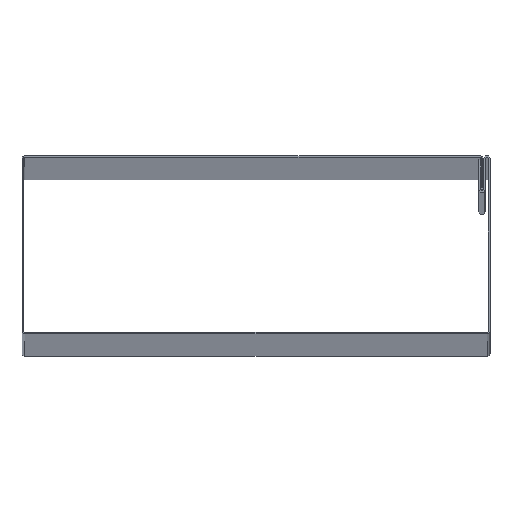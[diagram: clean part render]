
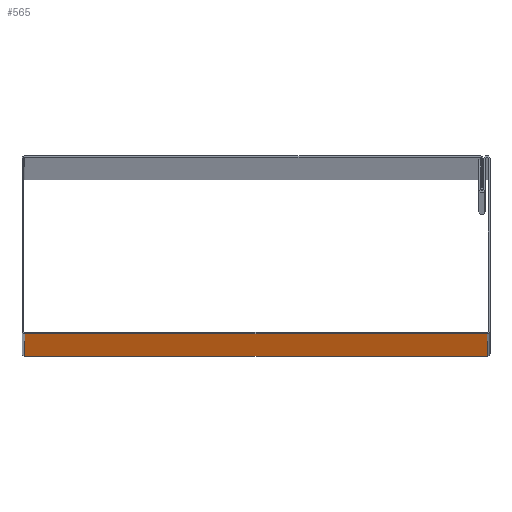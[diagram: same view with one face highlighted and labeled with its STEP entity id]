
A CAD part, top view. The second image highlights one B-rep face of the part: STEP entity #565.
In plain terms, the highlighted planar face has unit normal (0, -1, 0).
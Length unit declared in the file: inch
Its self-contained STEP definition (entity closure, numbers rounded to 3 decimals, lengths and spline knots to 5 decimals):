
#59=FACE_OUTER_BOUND('',#89,.T.);
#89=EDGE_LOOP('',(#403,#404,#405,#406));
#129=LINE('',#884,#189);
#130=LINE('',#887,#190);
#131=LINE('',#889,#191);
#132=LINE('',#890,#192);
#189=VECTOR('',#711,0.3937);
#190=VECTOR('',#714,0.3937);
#191=VECTOR('',#715,0.3937);
#192=VECTOR('',#716,0.3937);
#247=VERTEX_POINT('',#880);
#248=VERTEX_POINT('',#882);
#249=VERTEX_POINT('',#886);
#250=VERTEX_POINT('',#888);
#311=EDGE_CURVE('',#247,#248,#129,.T.);
#312=EDGE_CURVE('',#249,#247,#130,.T.);
#313=EDGE_CURVE('',#250,#248,#131,.T.);
#314=EDGE_CURVE('',#249,#250,#132,.T.);
#403=ORIENTED_EDGE('',*,*,#312,.T.);
#404=ORIENTED_EDGE('',*,*,#311,.T.);
#405=ORIENTED_EDGE('',*,*,#313,.F.);
#406=ORIENTED_EDGE('',*,*,#314,.F.);
#544=PLANE('',#623);
#565=ADVANCED_FACE('',(#59),#544,.T.);
#623=AXIS2_PLACEMENT_3D('',#885,#712,#713);
#711=DIRECTION('',(0.,0.,1.));
#712=DIRECTION('center_axis',(0.,-1.,0.));
#713=DIRECTION('ref_axis',(1.,0.,0.));
#714=DIRECTION('',(1.,0.,0.));
#715=DIRECTION('',(1.,0.,0.));
#716=DIRECTION('',(0.,0.,1.));
#880=CARTESIAN_POINT('',(3.97461,-2.37555,0.));
#882=CARTESIAN_POINT('',(3.97461,-2.37555,144.));
#884=CARTESIAN_POINT('',(3.97461,-2.37555,0.));
#885=CARTESIAN_POINT('Origin',(-1.21631,-2.37555,0.));
#886=CARTESIAN_POINT('',(-1.21631,-2.37555,0.));
#887=CARTESIAN_POINT('',(-1.21631,-2.37555,0.));
#888=CARTESIAN_POINT('',(-1.21631,-2.37555,144.));
#889=CARTESIAN_POINT('',(-1.21631,-2.37555,144.));
#890=CARTESIAN_POINT('',(-1.21631,-2.37555,0.));
